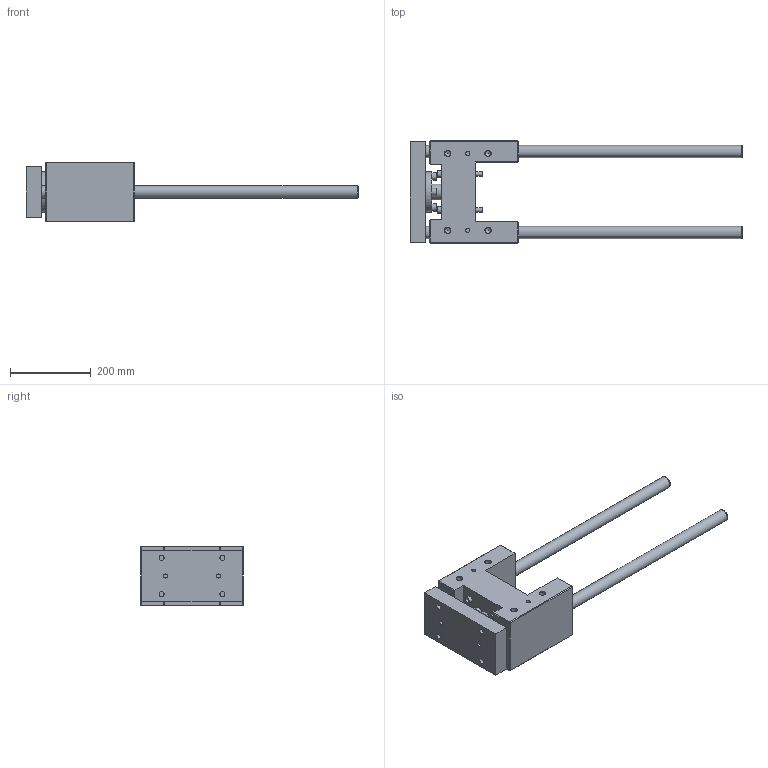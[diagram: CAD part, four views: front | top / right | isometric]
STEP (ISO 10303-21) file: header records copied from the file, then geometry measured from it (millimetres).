
FILE_DESCRIPTION( ( 'STEP AP214' ), '1' );
FILE_NAME( 'U:/Etudes/Top Solid/BIBLIO 3D AVM/TOP/PNEUMATIQUE/GUIDAGES/Type 32 (en H)/R_Renforcée/329R8230.step', '2005-05-27T09:26:22', ( ' ' ), ( ' ' ), 'XStep 1.0', ' ', ' ' );
FILE_SCHEMA( ( 'automotive_design' ) );
Length unit declared in the file: metre
Products named in the file (2): 1; 2
Bounding box: 820 x 252 x 148 mm (x, y, z)
Volume: 7082500.9 mm3; surface area: 608625.1 mm2
Topology: 2 solids, 7 shells, 239 faces, 527 edges, 341 vertices
Faces by surface type: plane 149, cylinder 69, cone 21
Full cylindrical faces by diameter (mm): 10 x12, 10.106 x4, 11 x4, 12 x8, 13 x8, 13.835 x8, 16 x4, 18 x4, 18.376 x2, 20 x4, 30 x4, 39 x1, 42 x1, 55 x1, 57 x1, 60 x1, 65 x1, 100 x1
Entity records: 7933 total; most frequent: CARTESIAN_POINT 1201, DIRECTION 1000, ORIENTED_EDGE 786, EDGE_CURVE 393, EDGE_LOOP 392, AXIS2_PLACEMENT_3D 374, FACE_OUTER_BOUND 308, VERTEX_POINT 303
